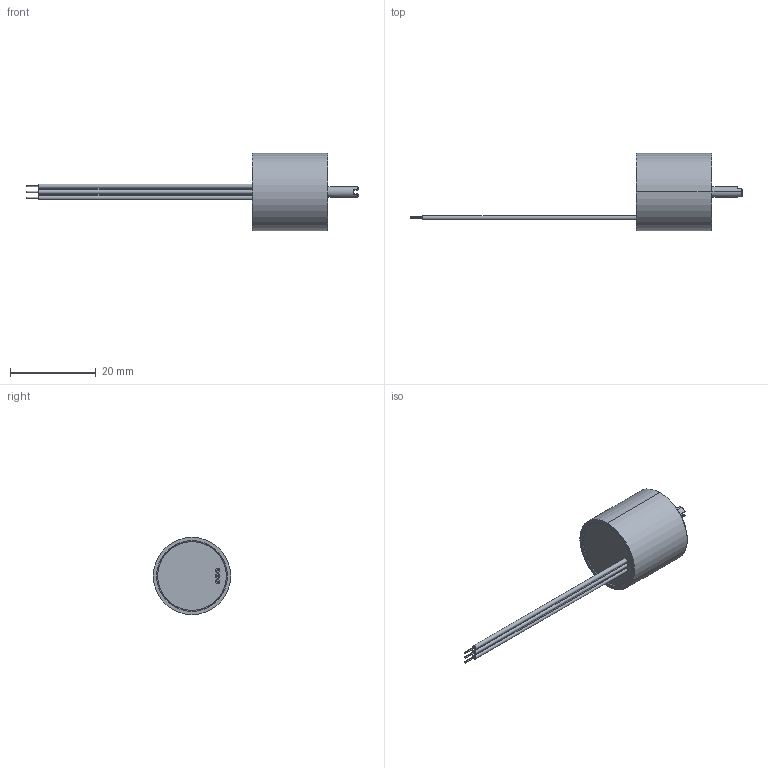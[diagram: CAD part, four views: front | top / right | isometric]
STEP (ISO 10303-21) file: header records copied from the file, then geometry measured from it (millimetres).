
FILE_DESCRIPTION (( 'STEP AP214' ), '1' );
FILE_NAME ('MAB18A.STEP', '2010-10-06T12:16:10', ( 'Mega' ), ( '' ), 'SwSTEP 2.0', 'SolidWorks 2007', '' );
FILE_SCHEMA (( 'AUTOMOTIVE_DESIGN' ));
Length unit declared in the file: millimetre
Products named in the file (8): 06_Kugellager3-7-3_01_Standard; 08_Flachbandkabel_01; 09_Vergusmasse_01; 07_Magnet 6x2mm_01; 05_IP65-R18_01; MAB18A; 04_Achse2,5mm MIB18_01; 01_Gehäuse MIB18_01
Assembly tree (8 placements, depth 2):
  MAB18A
    09_Vergusmasse_01
    04_Achse2,5mm MIB18_01
    06_Kugellager3-7-3_01_Standard  x2
    08_Flachbandkabel_01
    01_Gehäuse MIB18_01
    05_IP65-R18_01
    07_Magnet 6x2mm_01
Bounding box: 77.4 x 18 x 18 mm (x, y, z)
Volume: 3585.5 mm3; surface area: 4892.6 mm2
Topology: 8 solids, 8 shells, 1058 faces, 2485 edges, 1399 vertices
Faces by surface type: cylinder 276, bspline 255, plane 226, torus 125, sphere 114, cone 62
Entity records: 39430 total; most frequent: CARTESIAN_POINT 17224, ORIENTED_EDGE 4654, DIRECTION 4100, EDGE_CURVE 2327, AXIS2_PLACEMENT_3D 1645, VERTEX_POINT 1365, EDGE_LOOP 1092, FACE_OUTER_BOUND 1032
